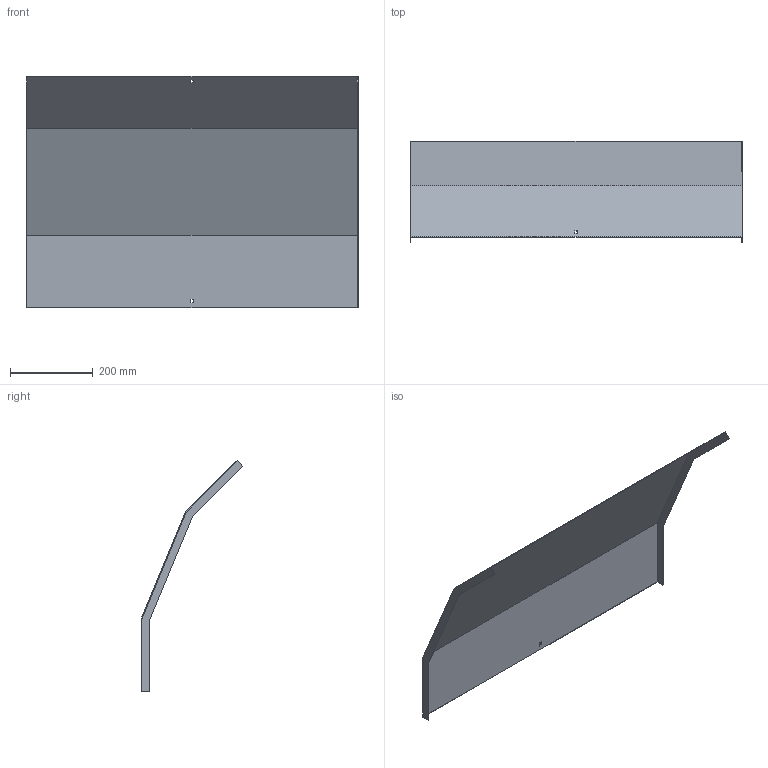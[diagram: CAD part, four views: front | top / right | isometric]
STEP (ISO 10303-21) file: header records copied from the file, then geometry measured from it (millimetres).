
FILE_DESCRIPTION (( 'STEP AP214' ), '1' );
FILE_NAME ('A2_34N3J800.step', '2025-02-21T10:35:39', ( '' ), ( '' ), 'SwSTEP 2.0', 'SolidWorks 2023', '' );
FILE_SCHEMA (( 'AUTOMOTIVE_DESIGN' ));
Length unit declared in the file: millimetre
Products named in the file (1): A2_34N3J800
Bounding box: 803 x 246.09 x 559.98 mm (x, y, z)
Volume: 796101.4 mm3; surface area: 1065934.3 mm2
Topology: 1 solids, 1 shells, 26 faces, 72 edges, 48 vertices
Faces by surface type: plane 26
Entity records: 847 total; most frequent: CARTESIAN_POINT 147, ORIENTED_EDGE 144, DIRECTION 126, EDGE_CURVE 72, VECTOR 72, LINE 72, VERTEX_POINT 48, EDGE_LOOP 30
